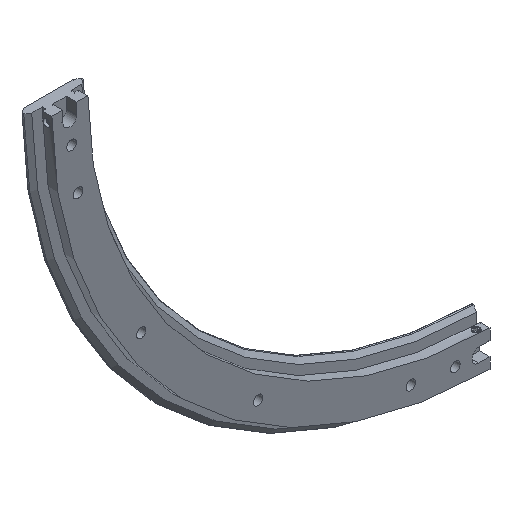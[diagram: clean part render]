
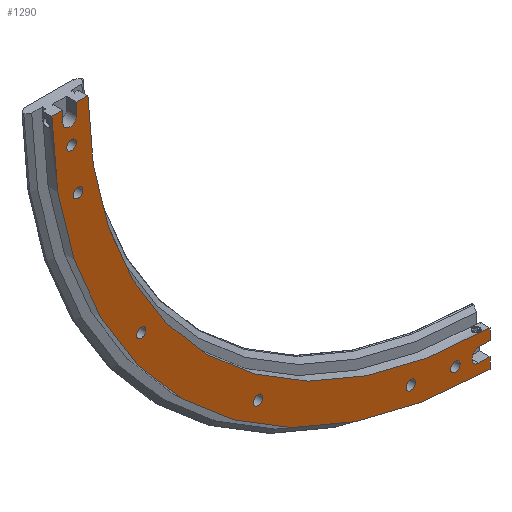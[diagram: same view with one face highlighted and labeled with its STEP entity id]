
A CAD part, isometric view. The second image highlights one B-rep face of the part: STEP entity #1290.
In plain terms, the highlighted planar face has unit normal (0, -1, 0).
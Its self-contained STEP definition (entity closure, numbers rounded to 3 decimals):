
#27=PLANE('',#1385);
#80=LINE('',#1914,#192);
#84=LINE('',#1922,#196);
#93=LINE('',#1987,#205);
#94=LINE('',#1988,#206);
#95=LINE('',#1990,#207);
#96=LINE('',#1994,#208);
#97=LINE('',#1996,#209);
#98=LINE('',#1999,#210);
#192=VECTOR('',#1521,1000.);
#196=VECTOR('',#1525,1000.);
#205=VECTOR('',#1550,1000.);
#206=VECTOR('',#1551,1000.);
#207=VECTOR('',#1552,1000.);
#208=VECTOR('',#1555,1000.);
#209=VECTOR('',#1556,1000.);
#210=VECTOR('',#1559,1000.);
#302=CIRCLE('',#1382,319.);
#304=CIRCLE('',#1386,3.4);
#305=CIRCLE('',#1387,3.4);
#306=CIRCLE('',#1388,3.4);
#307=CIRCLE('',#1389,3.4);
#308=CIRCLE('',#1390,3.4);
#309=CIRCLE('',#1391,3.4);
#310=CIRCLE('',#1392,5.);
#311=CIRCLE('',#1393,5.);
#312=CIRCLE('',#1394,293.);
#376=ORIENTED_EDGE('',*,*,#727,.F.);
#377=ORIENTED_EDGE('',*,*,#728,.F.);
#378=ORIENTED_EDGE('',*,*,#729,.F.);
#379=ORIENTED_EDGE('',*,*,#730,.F.);
#380=ORIENTED_EDGE('',*,*,#731,.F.);
#381=ORIENTED_EDGE('',*,*,#732,.F.);
#382=ORIENTED_EDGE('',*,*,#733,.T.);
#383=ORIENTED_EDGE('',*,*,#734,.T.);
#384=ORIENTED_EDGE('',*,*,#708,.T.);
#385=ORIENTED_EDGE('',*,*,#703,.T.);
#386=ORIENTED_EDGE('',*,*,#735,.T.);
#387=ORIENTED_EDGE('',*,*,#736,.T.);
#388=ORIENTED_EDGE('',*,*,#737,.T.);
#389=ORIENTED_EDGE('',*,*,#738,.T.);
#390=ORIENTED_EDGE('',*,*,#739,.T.);
#391=ORIENTED_EDGE('',*,*,#740,.F.);
#392=ORIENTED_EDGE('',*,*,#712,.T.);
#393=ORIENTED_EDGE('',*,*,#741,.T.);
#703=EDGE_CURVE('',#879,#880,#302,.T.);
#708=EDGE_CURVE('',#884,#879,#80,.T.);
#712=EDGE_CURVE('',#888,#887,#84,.T.);
#727=EDGE_CURVE('',#902,#902,#304,.T.);
#728=EDGE_CURVE('',#903,#903,#305,.T.);
#729=EDGE_CURVE('',#904,#904,#306,.T.);
#730=EDGE_CURVE('',#905,#905,#307,.T.);
#731=EDGE_CURVE('',#906,#906,#308,.T.);
#732=EDGE_CURVE('',#907,#907,#309,.T.);
#733=EDGE_CURVE('',#908,#909,#310,.T.);
#734=EDGE_CURVE('',#909,#884,#93,.T.);
#735=EDGE_CURVE('',#880,#910,#94,.T.);
#736=EDGE_CURVE('',#910,#911,#95,.T.);
#737=EDGE_CURVE('',#911,#912,#311,.T.);
#738=EDGE_CURVE('',#912,#913,#96,.T.);
#739=EDGE_CURVE('',#913,#914,#97,.T.);
#740=EDGE_CURVE('',#888,#914,#312,.T.);
#741=EDGE_CURVE('',#887,#908,#98,.T.);
#879=VERTEX_POINT('',#1894);
#880=VERTEX_POINT('',#1895);
#884=VERTEX_POINT('',#1915);
#887=VERTEX_POINT('',#1921);
#888=VERTEX_POINT('',#1923);
#902=VERTEX_POINT('',#1973);
#903=VERTEX_POINT('',#1975);
#904=VERTEX_POINT('',#1977);
#905=VERTEX_POINT('',#1979);
#906=VERTEX_POINT('',#1981);
#907=VERTEX_POINT('',#1983);
#908=VERTEX_POINT('',#1985);
#909=VERTEX_POINT('',#1986);
#910=VERTEX_POINT('',#1989);
#911=VERTEX_POINT('',#1991);
#912=VERTEX_POINT('',#1993);
#913=VERTEX_POINT('',#1995);
#914=VERTEX_POINT('',#1997);
#1026=EDGE_LOOP('',(#376));
#1027=EDGE_LOOP('',(#377));
#1028=EDGE_LOOP('',(#378));
#1029=EDGE_LOOP('',(#379));
#1030=EDGE_LOOP('',(#380));
#1031=EDGE_LOOP('',(#381));
#1032=EDGE_LOOP('',(#382,#383,#384,#385,#386,#387,#388,#389,#390,#391,#392,
#393));
#1148=FACE_BOUND('',#1026,.T.);
#1149=FACE_BOUND('',#1027,.T.);
#1150=FACE_BOUND('',#1028,.T.);
#1151=FACE_BOUND('',#1029,.T.);
#1152=FACE_BOUND('',#1030,.T.);
#1153=FACE_BOUND('',#1031,.T.);
#1154=FACE_BOUND('',#1032,.T.);
#1290=ADVANCED_FACE('',(#1148,#1149,#1150,#1151,#1152,#1153,#1154),#27,
 .T.);
#1382=AXIS2_PLACEMENT_3D('',#1893,#1513,#1514);
#1385=AXIS2_PLACEMENT_3D('',#1971,#1534,#1535);
#1386=AXIS2_PLACEMENT_3D('',#1972,#1536,#1537);
#1387=AXIS2_PLACEMENT_3D('',#1974,#1538,#1539);
#1388=AXIS2_PLACEMENT_3D('',#1976,#1540,#1541);
#1389=AXIS2_PLACEMENT_3D('',#1978,#1542,#1543);
#1390=AXIS2_PLACEMENT_3D('',#1980,#1544,#1545);
#1391=AXIS2_PLACEMENT_3D('',#1982,#1546,#1547);
#1392=AXIS2_PLACEMENT_3D('',#1984,#1548,#1549);
#1393=AXIS2_PLACEMENT_3D('',#1992,#1553,#1554);
#1394=AXIS2_PLACEMENT_3D('',#1998,#1557,#1558);
#1513=DIRECTION('',(0.,-1.,0.));
#1514=DIRECTION('',(0.,0.,-1.));
#1521=DIRECTION('',(-1.,0.,0.));
#1525=DIRECTION('',(-1.,0.,0.));
#1534=DIRECTION('',(0.,-1.,0.));
#1535=DIRECTION('',(0.,0.,-1.));
#1536=DIRECTION('',(0.,-1.,0.));
#1537=DIRECTION('',(0.,0.,-1.));
#1538=DIRECTION('',(0.,-1.,0.));
#1539=DIRECTION('',(0.,0.,-1.));
#1540=DIRECTION('',(0.,-1.,0.));
#1541=DIRECTION('',(0.,0.,-1.));
#1542=DIRECTION('',(0.,-1.,0.));
#1543=DIRECTION('',(0.,0.,-1.));
#1544=DIRECTION('',(0.,-1.,0.));
#1545=DIRECTION('',(0.,0.,-1.));
#1546=DIRECTION('',(0.,-1.,0.));
#1547=DIRECTION('',(0.,0.,-1.));
#1548=DIRECTION('',(0.,1.,0.));
#1549=DIRECTION('',(1.,0.,0.));
#1550=DIRECTION('',(0.,0.,1.));
#1551=DIRECTION('',(0.,0.,1.));
#1552=DIRECTION('',(-1.,0.,0.));
#1553=DIRECTION('',(0.,1.,0.));
#1554=DIRECTION('',(1.,0.,0.));
#1555=DIRECTION('',(1.,0.,0.));
#1556=DIRECTION('',(0.,0.,1.));
#1557=DIRECTION('',(0.,-1.,0.));
#1558=DIRECTION('',(0.,0.,-1.));
#1559=DIRECTION('',(0.,0.,-1.));
#1893=CARTESIAN_POINT('',(0.,0.,0.));
#1894=CARTESIAN_POINT('',(-318.99,0.,-2.5));
#1895=CARTESIAN_POINT('',(-2.5,0.,-318.99));
#1914=CARTESIAN_POINT('',(-2.5,0.,-2.5));
#1915=CARTESIAN_POINT('',(-311.,0.,-2.5));
#1921=CARTESIAN_POINT('',(-301.,0.,-2.5));
#1922=CARTESIAN_POINT('',(-2.5,0.,-2.5));
#1923=CARTESIAN_POINT('',(-292.989,0.,-2.5));
#1971=CARTESIAN_POINT('',(-293.,0.,0.));
#1972=CARTESIAN_POINT('',(-304.762,0.,-27.5));
#1973=CARTESIAN_POINT('',(-304.762,0.,-30.9));
#1974=CARTESIAN_POINT('',(-27.5,0.,-304.762));
#1975=CARTESIAN_POINT('',(-27.5,0.,-308.162));
#1976=CARTESIAN_POINT('',(-254.43,0.,-170.004));
#1977=CARTESIAN_POINT('',(-254.43,0.,-173.404));
#1978=CARTESIAN_POINT('',(-170.004,0.,-254.43));
#1979=CARTESIAN_POINT('',(-170.004,0.,-257.83));
#1980=CARTESIAN_POINT('',(-300.12,0.,-59.698));
#1981=CARTESIAN_POINT('',(-300.12,0.,-63.098));
#1982=CARTESIAN_POINT('',(-59.698,0.,-300.12));
#1983=CARTESIAN_POINT('',(-59.698,0.,-303.52));
#1984=CARTESIAN_POINT('',(-306.,0.,-10.5));
#1985=CARTESIAN_POINT('',(-301.,0.,-10.5));
#1986=CARTESIAN_POINT('',(-311.,0.,-10.5));
#1987=CARTESIAN_POINT('',(-311.,0.,-10.5));
#1988=CARTESIAN_POINT('',(-2.5,0.,-328.37));
#1989=CARTESIAN_POINT('',(-2.5,0.,-311.));
#1990=CARTESIAN_POINT('',(0.,0.,-311.));
#1991=CARTESIAN_POINT('',(-10.5,0.,-311.));
#1992=CARTESIAN_POINT('',(-10.5,0.,-306.));
#1993=CARTESIAN_POINT('',(-10.5,0.,-301.));
#1994=CARTESIAN_POINT('',(-10.5,0.,-301.));
#1995=CARTESIAN_POINT('',(-2.5,0.,-301.));
#1996=CARTESIAN_POINT('',(-2.5,0.,-328.37));
#1997=CARTESIAN_POINT('',(-2.5,0.,-292.989));
#1998=CARTESIAN_POINT('',(0.,0.,0.));
#1999=CARTESIAN_POINT('',(-301.,0.,0.));
